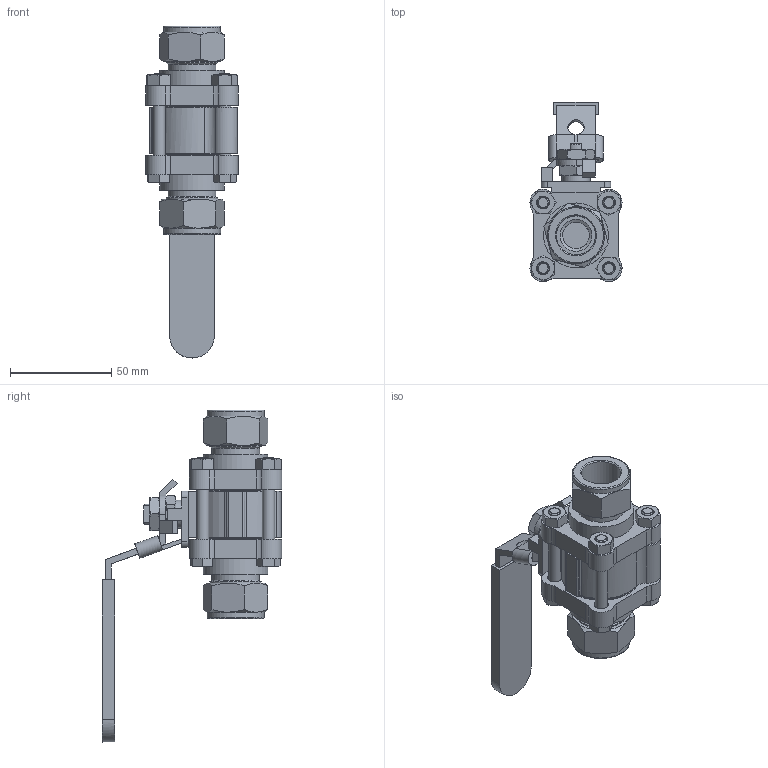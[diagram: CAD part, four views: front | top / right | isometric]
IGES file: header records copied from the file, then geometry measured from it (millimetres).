
Global section: file name: SWB3202-S12; native system: Autodesk Inventor 2016; preprocessor: unknown; author: DESIGNPC2; date: 20160502.104356; units: millimetre
Bounding box: 45.52 x 88.57 x 163.99 mm (x, y, z)
Volume: 119257 mm3; surface area: 49538.8 mm2
Topology: 16 solids, 16 shells, 770 faces, 1998 edges, 1326 vertices
Faces by surface type: bspline 770
